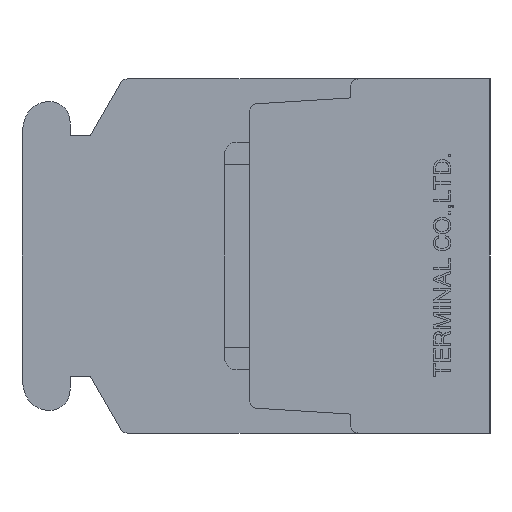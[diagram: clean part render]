
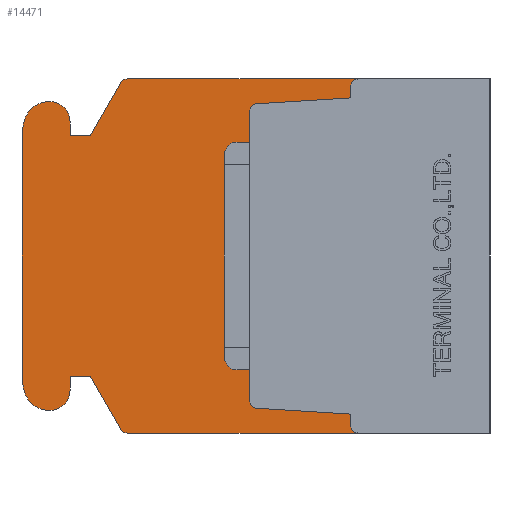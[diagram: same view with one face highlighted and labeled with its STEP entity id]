
A CAD part, left-side view. The second image highlights one B-rep face of the part: STEP entity #14471.
In plain terms, the highlighted planar face has unit normal (-1, 0, 0).
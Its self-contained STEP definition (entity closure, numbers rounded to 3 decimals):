
#683=PLANE('',#15467);
#1191=CIRCLE('',#15468,0.3);
#1192=CIRCLE('',#15469,0.3);
#1193=CIRCLE('',#15470,0.3);
#1194=CIRCLE('',#15471,0.3);
#1195=CIRCLE('',#15472,0.3);
#1196=CIRCLE('',#15473,0.8);
#1197=CIRCLE('',#15474,1.);
#1198=CIRCLE('',#15475,2.);
#1199=CIRCLE('',#15476,2.);
#1200=CIRCLE('',#15477,1.);
#1201=CIRCLE('',#15478,0.8);
#1202=CIRCLE('',#15479,0.3);
#1918=VECTOR('',#17356,1.);
#1919=VECTOR('',#17357,1.);
#1920=VECTOR('',#17360,1.);
#1921=VECTOR('',#17363,1.);
#1922=VECTOR('',#17364,1.);
#1923=VECTOR('',#17367,1.);
#1924=VECTOR('',#17370,1.);
#1925=VECTOR('',#17371,1.);
#1926=VECTOR('',#17372,1.);
#1927=VECTOR('',#17375,1.);
#1928=VECTOR('',#17380,1.);
#1929=VECTOR('',#17385,1.);
#1930=VECTOR('',#17388,1.);
#1931=VECTOR('',#17389,1.);
#1932=VECTOR('',#17390,1.);
#1933=VECTOR('',#17393,1.);
#3530=LINE('',#20733,#1918);
#3531=LINE('',#20735,#1919);
#3532=LINE('',#20739,#1920);
#3533=LINE('',#20743,#1921);
#3534=LINE('',#20745,#1922);
#3535=LINE('',#20749,#1923);
#3536=LINE('',#20753,#1924);
#3537=LINE('',#20755,#1925);
#3538=LINE('',#20757,#1926);
#3539=LINE('',#20761,#1927);
#3540=LINE('',#20767,#1928);
#3541=LINE('',#20773,#1929);
#3542=LINE('',#20777,#1930);
#3543=LINE('',#20779,#1931);
#3544=LINE('',#20781,#1932);
#3545=LINE('',#20785,#1933);
#5115=VERTEX_POINT('',#20731);
#5116=VERTEX_POINT('',#20732);
#5117=VERTEX_POINT('',#20734);
#5118=VERTEX_POINT('',#20736);
#5119=VERTEX_POINT('',#20738);
#5120=VERTEX_POINT('',#20740);
#5121=VERTEX_POINT('',#20742);
#5122=VERTEX_POINT('',#20744);
#5123=VERTEX_POINT('',#20746);
#5124=VERTEX_POINT('',#20748);
#5125=VERTEX_POINT('',#20750);
#5126=VERTEX_POINT('',#20752);
#5127=VERTEX_POINT('',#20754);
#5128=VERTEX_POINT('',#20756);
#5129=VERTEX_POINT('',#20758);
#5130=VERTEX_POINT('',#20760);
#5131=VERTEX_POINT('',#20762);
#5132=VERTEX_POINT('',#20764);
#5133=VERTEX_POINT('',#20766);
#5134=VERTEX_POINT('',#20768);
#5135=VERTEX_POINT('',#20770);
#5136=VERTEX_POINT('',#20772);
#5137=VERTEX_POINT('',#20774);
#5138=VERTEX_POINT('',#20776);
#5139=VERTEX_POINT('',#20778);
#5140=VERTEX_POINT('',#20780);
#5141=VERTEX_POINT('',#20782);
#5142=VERTEX_POINT('',#20784);
#6900=EDGE_CURVE('',#5115,#5116,#1191,.T.);
#6901=EDGE_CURVE('',#5117,#5115,#3530,.T.);
#6902=EDGE_CURVE('',#5118,#5117,#3531,.T.);
#6903=EDGE_CURVE('',#5119,#5118,#1192,.T.);
#6904=EDGE_CURVE('',#5120,#5119,#3532,.T.);
#6905=EDGE_CURVE('',#5121,#5120,#1193,.T.);
#6906=EDGE_CURVE('',#5122,#5121,#3533,.T.);
#6907=EDGE_CURVE('',#5123,#5122,#3534,.T.);
#6908=EDGE_CURVE('',#5124,#5123,#1194,.T.);
#6909=EDGE_CURVE('',#5125,#5124,#3535,.T.);
#6910=EDGE_CURVE('',#5126,#5125,#1195,.T.);
#6911=EDGE_CURVE('',#5127,#5126,#3536,.T.);
#6912=EDGE_CURVE('',#5128,#5127,#3537,.T.);
#6913=EDGE_CURVE('',#5129,#5128,#3538,.T.);
#6914=EDGE_CURVE('',#5130,#5129,#1196,.T.);
#6915=EDGE_CURVE('',#5131,#5130,#3539,.T.);
#6916=EDGE_CURVE('',#5132,#5131,#1197,.T.);
#6917=EDGE_CURVE('',#5133,#5132,#1198,.T.);
#6918=EDGE_CURVE('',#5134,#5133,#3540,.T.);
#6919=EDGE_CURVE('',#5135,#5134,#1199,.T.);
#6920=EDGE_CURVE('',#5136,#5135,#1200,.T.);
#6921=EDGE_CURVE('',#5137,#5136,#3541,.T.);
#6922=EDGE_CURVE('',#5138,#5137,#1201,.T.);
#6923=EDGE_CURVE('',#5139,#5138,#3542,.T.);
#6924=EDGE_CURVE('',#5140,#5139,#3543,.T.);
#6925=EDGE_CURVE('',#5141,#5140,#3544,.T.);
#6926=EDGE_CURVE('',#5142,#5141,#1202,.T.);
#6927=EDGE_CURVE('',#5116,#5142,#3545,.T.);
#9883=ORIENTED_EDGE('',*,*,#6900,.F.);
#9884=ORIENTED_EDGE('',*,*,#6901,.F.);
#9885=ORIENTED_EDGE('',*,*,#6902,.F.);
#9886=ORIENTED_EDGE('',*,*,#6903,.F.);
#9887=ORIENTED_EDGE('',*,*,#6904,.F.);
#9888=ORIENTED_EDGE('',*,*,#6905,.F.);
#9889=ORIENTED_EDGE('',*,*,#6906,.F.);
#9890=ORIENTED_EDGE('',*,*,#6907,.F.);
#9891=ORIENTED_EDGE('',*,*,#6908,.F.);
#9892=ORIENTED_EDGE('',*,*,#6909,.F.);
#9893=ORIENTED_EDGE('',*,*,#6910,.F.);
#9894=ORIENTED_EDGE('',*,*,#6911,.F.);
#9895=ORIENTED_EDGE('',*,*,#6912,.F.);
#9896=ORIENTED_EDGE('',*,*,#6913,.F.);
#9897=ORIENTED_EDGE('',*,*,#6914,.F.);
#9898=ORIENTED_EDGE('',*,*,#6915,.F.);
#9899=ORIENTED_EDGE('',*,*,#6916,.F.);
#9900=ORIENTED_EDGE('',*,*,#6917,.F.);
#9901=ORIENTED_EDGE('',*,*,#6918,.F.);
#9902=ORIENTED_EDGE('',*,*,#6919,.F.);
#9903=ORIENTED_EDGE('',*,*,#6920,.F.);
#9904=ORIENTED_EDGE('',*,*,#6921,.F.);
#9905=ORIENTED_EDGE('',*,*,#6922,.F.);
#9906=ORIENTED_EDGE('',*,*,#6923,.F.);
#9907=ORIENTED_EDGE('',*,*,#6924,.F.);
#9908=ORIENTED_EDGE('',*,*,#6925,.F.);
#9909=ORIENTED_EDGE('',*,*,#6926,.F.);
#9910=ORIENTED_EDGE('',*,*,#6927,.F.);
#12770=EDGE_LOOP('',(#9883,#9884,#9885,#9886,#9887,#9888,#9889,#9890,#9891,
#9892,#9893,#9894,#9895,#9896,#9897,#9898,#9899,#9900,#9901,#9902,#9903,
#9904,#9905,#9906,#9907,#9908,#9909,#9910));
#13634=FACE_BOUND('',#12770,.T.);
#14471=ADVANCED_FACE('',(#13634),#683,.F.);
#15467=AXIS2_PLACEMENT_3D('',#20729,#17353,$);
#15468=AXIS2_PLACEMENT_3D('',#20730,#17354,#17355);
#15469=AXIS2_PLACEMENT_3D('',#20737,#17358,#17359);
#15470=AXIS2_PLACEMENT_3D('',#20741,#17361,#17362);
#15471=AXIS2_PLACEMENT_3D('',#20747,#17365,#17366);
#15472=AXIS2_PLACEMENT_3D('',#20751,#17368,#17369);
#15473=AXIS2_PLACEMENT_3D('',#20759,#17373,#17374);
#15474=AXIS2_PLACEMENT_3D('',#20763,#17376,#17377);
#15475=AXIS2_PLACEMENT_3D('',#20765,#17378,#17379);
#15476=AXIS2_PLACEMENT_3D('',#20769,#17381,#17382);
#15477=AXIS2_PLACEMENT_3D('',#20771,#17383,#17384);
#15478=AXIS2_PLACEMENT_3D('',#20775,#17386,#17387);
#15479=AXIS2_PLACEMENT_3D('',#20783,#17391,#17392);
#17353=DIRECTION('',(1.,0.,0.));
#17354=DIRECTION('',(-1.,0.,0.));
#17355=DIRECTION('',(0.,0.,-0.3));
#17356=DIRECTION('',(0.,0.,-1.));
#17357=DIRECTION('',(0.,-0.998,-0.062));
#17358=DIRECTION('',(-1.,0.,0.));
#17359=DIRECTION('',(0.,0.,-0.3));
#17360=DIRECTION('',(0.,0.,-1.));
#17361=DIRECTION('',(-1.,0.,0.));
#17362=DIRECTION('',(0.,0.,-0.3));
#17363=DIRECTION('',(0.,0.998,-0.062));
#17364=DIRECTION('',(0.,0.,-1.));
#17365=DIRECTION('',(-1.,0.,0.));
#17366=DIRECTION('',(0.,0.,-0.3));
#17367=DIRECTION('',(0.,-1.,0.));
#17368=DIRECTION('',(1.,0.,0.));
#17369=DIRECTION('',(0.,0.,-0.3));
#17370=DIRECTION('',(0.,-0.5,0.866));
#17371=DIRECTION('',(0.,-1.,0.));
#17372=DIRECTION('',(0.,0.,-1.));
#17373=DIRECTION('',(1.,0.,0.));
#17374=DIRECTION('',(0.,0.,-0.8));
#17375=DIRECTION('',(0.,-1.,0.));
#17376=DIRECTION('',(1.,0.,0.));
#17377=DIRECTION('',(0.,0.,-1.));
#17378=DIRECTION('',(1.,0.,0.));
#17379=DIRECTION('',(0.,0.,-2.));
#17380=DIRECTION('',(0.,0.,1.));
#17381=DIRECTION('',(1.,0.,0.));
#17382=DIRECTION('',(0.,0.,-2.));
#17383=DIRECTION('',(1.,0.,0.));
#17384=DIRECTION('',(0.,0.,-1.));
#17385=DIRECTION('',(0.,1.,0.));
#17386=DIRECTION('',(1.,0.,0.));
#17387=DIRECTION('',(0.,0.,-0.8));
#17388=DIRECTION('',(0.,0.,-1.));
#17389=DIRECTION('',(0.,1.,0.));
#17390=DIRECTION('',(0.,0.5,0.866));
#17391=DIRECTION('',(1.,0.,0.));
#17392=DIRECTION('',(0.,0.,-0.3));
#17393=DIRECTION('',(0.,1.,0.));
#20729=CARTESIAN_POINT('',(8.15,9.311,0.));
#20730=CARTESIAN_POINT('',(8.15,5.2,-6.7));
#20731=CARTESIAN_POINT('',(8.15,5.5,-6.7));
#20732=CARTESIAN_POINT('',(8.15,5.2,-7.));
#20733=CARTESIAN_POINT('',(8.15,5.5,-6.7));
#20734=CARTESIAN_POINT('',(8.15,5.5,-6.25));
#20735=CARTESIAN_POINT('',(8.15,5.5,-6.25));
#20736=CARTESIAN_POINT('',(8.15,9.219,-6.018));
#20737=CARTESIAN_POINT('',(8.15,9.2,-5.718));
#20738=CARTESIAN_POINT('',(8.15,9.5,-5.718));
#20739=CARTESIAN_POINT('',(8.15,9.5,-5.718));
#20740=CARTESIAN_POINT('',(8.15,9.5,5.718));
#20741=CARTESIAN_POINT('',(8.15,9.2,5.718));
#20742=CARTESIAN_POINT('',(8.15,9.219,6.018));
#20743=CARTESIAN_POINT('',(8.15,9.219,6.018));
#20744=CARTESIAN_POINT('',(8.15,5.5,6.25));
#20745=CARTESIAN_POINT('',(8.15,5.5,6.25));
#20746=CARTESIAN_POINT('',(8.15,5.5,6.7));
#20747=CARTESIAN_POINT('',(8.15,5.2,6.7));
#20748=CARTESIAN_POINT('',(8.15,5.2,7.));
#20749=CARTESIAN_POINT('',(8.15,14.327,7.));
#20750=CARTESIAN_POINT('',(8.15,14.327,7.));
#20751=CARTESIAN_POINT('',(8.15,14.327,6.7));
#20752=CARTESIAN_POINT('',(8.15,14.587,6.85));
#20753=CARTESIAN_POINT('',(8.15,15.8,4.75));
#20754=CARTESIAN_POINT('',(8.15,15.8,4.75));
#20755=CARTESIAN_POINT('',(8.15,16.6,4.75));
#20756=CARTESIAN_POINT('',(8.15,16.6,4.75));
#20757=CARTESIAN_POINT('',(8.15,16.6,5.3));
#20758=CARTESIAN_POINT('',(8.15,16.6,5.3));
#20759=CARTESIAN_POINT('',(8.15,17.4,5.3));
#20760=CARTESIAN_POINT('',(8.15,17.4,6.1));
#20761=CARTESIAN_POINT('',(8.15,17.437,6.1));
#20762=CARTESIAN_POINT('',(8.15,17.437,6.1));
#20763=CARTESIAN_POINT('',(8.15,17.437,5.1));
#20764=CARTESIAN_POINT('',(8.15,18.373,5.45));
#20765=CARTESIAN_POINT('',(8.15,16.5,4.75));
#20766=CARTESIAN_POINT('',(8.15,18.5,4.75));
#20767=CARTESIAN_POINT('',(8.15,18.5,-4.75));
#20768=CARTESIAN_POINT('',(8.15,18.5,-4.75));
#20769=CARTESIAN_POINT('',(8.15,16.5,-4.75));
#20770=CARTESIAN_POINT('',(8.15,18.373,-5.45));
#20771=CARTESIAN_POINT('',(8.15,17.437,-5.1));
#20772=CARTESIAN_POINT('',(8.15,17.437,-6.1));
#20773=CARTESIAN_POINT('',(8.15,17.4,-6.1));
#20774=CARTESIAN_POINT('',(8.15,17.4,-6.1));
#20775=CARTESIAN_POINT('',(8.15,17.4,-5.3));
#20776=CARTESIAN_POINT('',(8.15,16.6,-5.3));
#20777=CARTESIAN_POINT('',(8.15,16.6,-4.75));
#20778=CARTESIAN_POINT('',(8.15,16.6,-4.75));
#20779=CARTESIAN_POINT('',(8.15,15.8,-4.75));
#20780=CARTESIAN_POINT('',(8.15,15.8,-4.75));
#20781=CARTESIAN_POINT('',(8.15,14.587,-6.85));
#20782=CARTESIAN_POINT('',(8.15,14.587,-6.85));
#20783=CARTESIAN_POINT('',(8.15,14.327,-6.7));
#20784=CARTESIAN_POINT('',(8.15,14.327,-7.));
#20785=CARTESIAN_POINT('',(8.15,0.,-7.));
